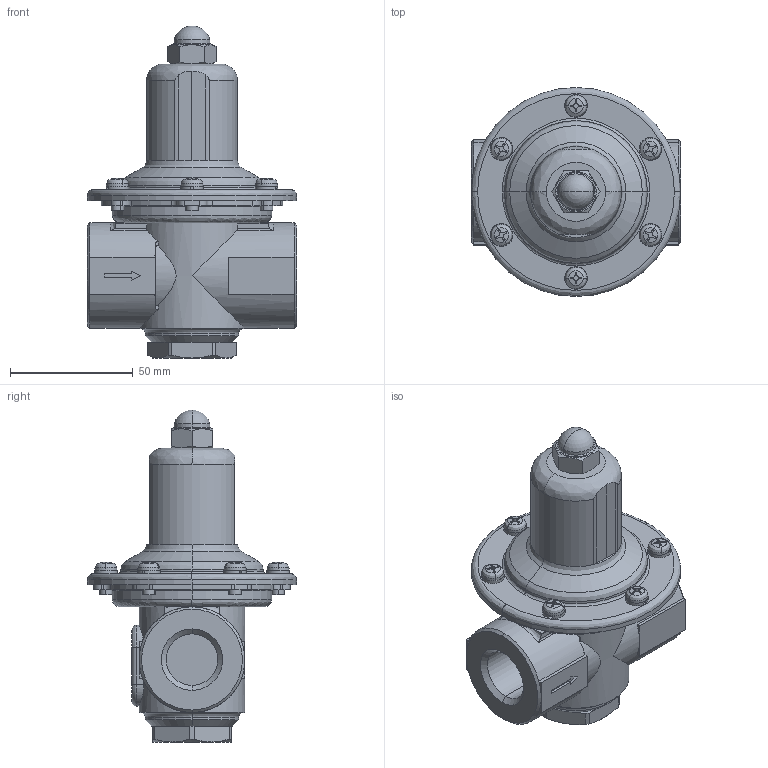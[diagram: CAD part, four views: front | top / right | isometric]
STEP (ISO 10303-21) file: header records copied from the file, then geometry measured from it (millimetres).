
FILE_DESCRIPTION( (''), '2;1');
FILE_NAME ('PC1027.208.GD-41(15A)_20690.stp','2025-11-26T09:33:16',(''),(''),'spGate 20.6.3 (****-****-****-****)','','');
FILE_SCHEMA (('AUTOMOTIVE_DESIGN'));
Length unit declared in the file: millimetre
Products named in the file (7): Assembly; ばねかばー; 袋ナット; 下部キャップ; なべこねじ(Ｍ5-10); スプリング座金; GD-41 15A
Assembly tree (16 placements, depth 2):
  Assembly
    ばねかばー
    袋ナット
    下部キャップ
    なべこねじ(Ｍ5-10)  x6
    スプリング座金  x6
    GD-41 15A
Bounding box: 85 x 85 x 135 mm (x, y, z)
Volume: 171785.1 mm3; surface area: 62863.1 mm2
Topology: 16 solids, 16 shells, 582 faces, 1468 edges, 933 vertices
Faces by surface type: plane 252, cylinder 196, bspline 118, sphere 16
Entity records: 23368 total; most frequent: CARTESIAN_POINT 5174, ORIENTED_EDGE 2128, DIRECTION 1914, COLOUR_RGB 1487, PRESENTATION_STYLE_ASSIGNMENT 1487, STYLED_ITEM 1487, EDGE_CURVE 1064, DRAUGHTING_PRE_DEFINED_CURVE_FONT 1064
